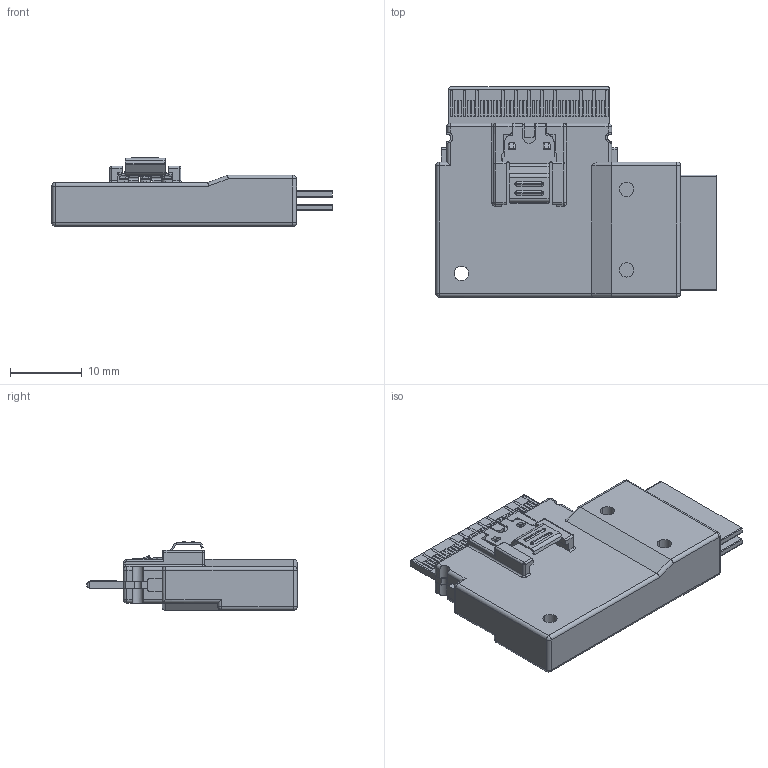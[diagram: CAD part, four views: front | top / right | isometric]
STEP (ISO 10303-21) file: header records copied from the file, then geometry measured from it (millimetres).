
FILE_DESCRIPTION((''),'2;1');
FILE_NAME('LEFT_SIDE_EXIT__SLIMSAS_8I_AST8_ASM','2016-08-18T',('louischan'),(''),'PRO/ENGINEER BY PARAMETRIC TECHNOLOGY CORPORATION, 2013230','PRO/ENGINEER BY PARAMETRIC TECHNOLOGY CORPORATION, 2013230','');
FILE_SCHEMA(('CONFIG_CONTROL_DESIGN'));
Length unit declared in the file: millimetre
Products named in the file (7): PRT0018_2; PRT0019_1; PRT0020_1; PRT0021_2; PLUG_ASM_3_ASM_1_ASM; 15_ASM_1_ASM; LEFT_SIDE_EXIT__SLIMSAS_8I_AST8_ASM
Assembly tree (7 placements, depth 4):
  LEFT_SIDE_EXIT__SLIMSAS_8I_AST8_ASM
    15_ASM_1_ASM
      PLUG_ASM_3_ASM_1_ASM
        PRT0018_2
        PRT0019_1
        PRT0020_1
        PRT0021_2  x2
Bounding box: 38.95 x 29.2 x 9.54 mm (x, y, z)
Volume: 5008.2 mm3; surface area: 5630.3 mm2
Topology: 5 solids, 5 shells, 1101 faces, 2843 edges, 1860 vertices
Faces by surface type: plane 833, cylinder 156, extrusion 73, sphere 16, bspline 12, torus 11
Entity records: 33800 total; most frequent: CARTESIAN_POINT 7137, ORIENTED_EDGE 5606, DIRECTION 5058, EDGE_CURVE 2803, VECTOR 2346, LINE 2273, VERTEX_POINT 1844, AXIS2_PLACEMENT_3D 1356
